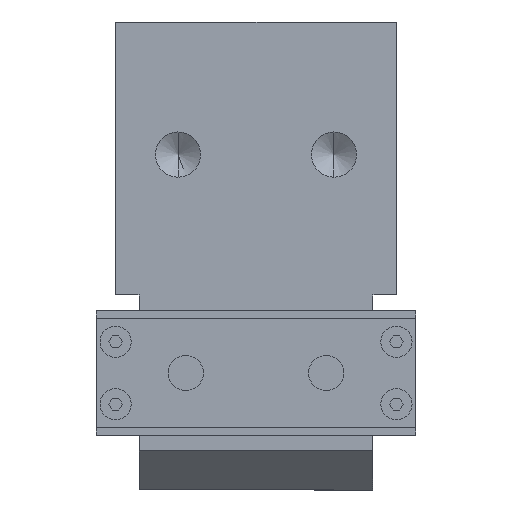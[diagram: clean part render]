
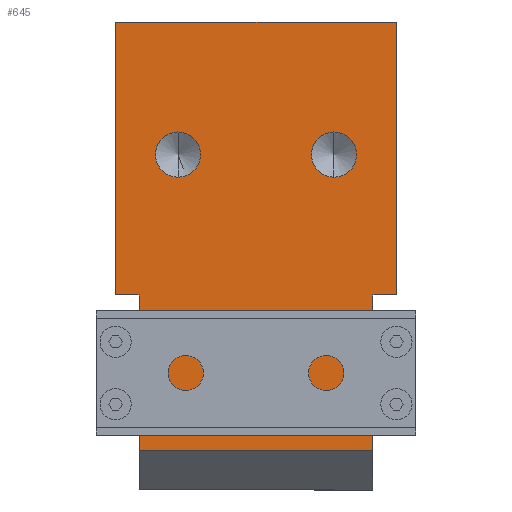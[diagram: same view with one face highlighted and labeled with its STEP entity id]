
A CAD part, left-side view. The second image highlights one B-rep face of the part: STEP entity #645.
In plain terms, the highlighted planar face has unit normal (-1, 0, 0).
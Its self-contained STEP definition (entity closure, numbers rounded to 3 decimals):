
#108 = VERTEX_POINT ( 'NONE', #2034 ) ;
#113 = VERTEX_POINT ( 'NONE', #2143 ) ;
#151 = EDGE_CURVE ( 'NONE', #108, #238, #2081, .T. ) ;
#234 = EDGE_CURVE ( 'NONE', #1943, #113, #2322, .T. ) ;
#238 = VERTEX_POINT ( 'NONE', #2313 ) ;
#280 = VERTEX_POINT ( 'NONE', #2564 ) ;
#390 = EDGE_CURVE ( 'NONE', #280, #770, #2604, .T. ) ;
#474 = VERTEX_POINT ( 'NONE', #2780 ) ;
#642 = ORIENTED_EDGE ( 'NONE', *, *, #668, .T. ) ;
#643 = EDGE_CURVE ( 'NONE', #113, #1943, #3180, .T. ) ;
#645 = ADVANCED_FACE ( 'NONE', ( #3173, #2973, #2968 ), #2972, .F. ) ;
#647 = ORIENTED_EDGE ( 'NONE', *, *, #773, .T. ) ;
#648 = ORIENTED_EDGE ( 'NONE', *, *, #390, .F. ) ;
#649 = EDGE_CURVE ( 'NONE', #683, #682, #2959, .T. ) ;
#652 = ORIENTED_EDGE ( 'NONE', *, *, #234, .F. ) ;
#653 = ORIENTED_EDGE ( 'NONE', *, *, #649, .F. ) ;
#655 = ORIENTED_EDGE ( 'NONE', *, *, #643, .F. ) ;
#659 = ORIENTED_EDGE ( 'NONE', *, *, #674, .F. ) ;
#661 = ORIENTED_EDGE ( 'NONE', *, *, #679, .T. ) ;
#662 = EDGE_CURVE ( 'NONE', #666, #474, #2963, .T. ) ;
#666 = VERTEX_POINT ( 'NONE', #3058 ) ;
#668 = EDGE_CURVE ( 'NONE', #238, #682, #3051, .T. ) ;
#671 = EDGE_LOOP ( 'NONE', ( #655, #652 ) ) ;
#674 = EDGE_CURVE ( 'NONE', #108, #280, #3129, .T. ) ;
#675 = ORIENTED_EDGE ( 'NONE', *, *, #677, .F. ) ;
#677 = EDGE_CURVE ( 'NONE', #2010, #1951, #3057, .T. ) ;
#678 = ORIENTED_EDGE ( 'NONE', *, *, #1950, .F. ) ;
#679 = EDGE_CURVE ( 'NONE', #683, #666, #3122, .T. ) ;
#682 = VERTEX_POINT ( 'NONE', #3142 ) ;
#683 = VERTEX_POINT ( 'NONE', #3123 ) ;
#697 = EDGE_LOOP ( 'NONE', ( #675, #678 ) ) ;
#700 = ORIENTED_EDGE ( 'NONE', *, *, #151, .T. ) ;
#703 = ORIENTED_EDGE ( 'NONE', *, *, #662, .T. ) ;
#704 = EDGE_LOOP ( 'NONE', ( #653, #661, #703, #647, #648, #659, #700, #642 ) ) ;
#770 = VERTEX_POINT ( 'NONE', #3288 ) ;
#773 = EDGE_CURVE ( 'NONE', #474, #770, #3309, .T. ) ;
#1943 = VERTEX_POINT ( 'NONE', #5842 ) ;
#1950 = EDGE_CURVE ( 'NONE', #1951, #2010, #5814, .T. ) ;
#1951 = VERTEX_POINT ( 'NONE', #5853 ) ;
#2010 = VERTEX_POINT ( 'NONE', #5768 ) ;
#2034 = CARTESIAN_POINT ( 'NONE',  ( 0., 36., 35. ) ) ;
#2052 = DIRECTION ( 'NONE',  ( 0., 0., -1. ) ) ;
#2053 = VECTOR ( 'NONE', #2052, 1000. ) ;
#2054 = CARTESIAN_POINT ( 'NONE',  ( 0., 36., 35. ) ) ;
#2081 = LINE ( 'NONE', #2054, #2053 ) ;
#2143 = CARTESIAN_POINT ( 'NONE',  ( 0., 28., 20.9 ) ) ;
#2308 = AXIS2_PLACEMENT_3D ( 'NONE', #2342, #2341, #2340 ) ;
#2313 = CARTESIAN_POINT ( 'NONE',  ( 0., 36., 0. ) ) ;
#2322 = CIRCLE ( 'NONE', #2308, 2.9 ) ;
#2340 = DIRECTION ( 'NONE',  ( 0., 0., 1. ) ) ;
#2341 = DIRECTION ( 'NONE',  ( -1., 0., 0. ) ) ;
#2342 = CARTESIAN_POINT ( 'NONE',  ( 0., 28., 18. ) ) ;
#2564 = CARTESIAN_POINT ( 'NONE',  ( 0., 0., 35. ) ) ;
#2604 = LINE ( 'NONE', #2652, #2640 ) ;
#2640 = VECTOR ( 'NONE', #2651, 1000. ) ;
#2651 = DIRECTION ( 'NONE',  ( 0., 0., -1. ) ) ;
#2652 = CARTESIAN_POINT ( 'NONE',  ( 0., 0., 35. ) ) ;
#2780 = CARTESIAN_POINT ( 'NONE',  ( 0., 3., 0. ) ) ;
#2959 = LINE ( 'NONE', #3172, #3071 ) ;
#2960 = DIRECTION ( 'NONE',  ( 0., 0., -1. ) ) ;
#2962 = CARTESIAN_POINT ( 'NONE',  ( 0., 3., -25. ) ) ;
#2963 = LINE ( 'NONE', #2962, #3060 ) ;
#2964 = CARTESIAN_POINT ( 'NONE',  ( 0., 0., 35. ) ) ;
#2968 = FACE_OUTER_BOUND ( 'NONE', #704, .T. ) ;
#2970 = DIRECTION ( 'NONE',  ( 0., 0., 1. ) ) ;
#2971 = DIRECTION ( 'NONE',  ( -1., 0., 0. ) ) ;
#2972 = PLANE ( 'NONE',  #3184 ) ;
#2973 = FACE_BOUND ( 'NONE', #671, .T. ) ;
#3047 = CARTESIAN_POINT ( 'NONE',  ( 0., 3., -20. ) ) ;
#3048 = DIRECTION ( 'NONE',  ( 0., -1., 0. ) ) ;
#3049 = VECTOR ( 'NONE', #3048, 1000. ) ;
#3050 = CARTESIAN_POINT ( 'NONE',  ( 0., 0., 0. ) ) ;
#3051 = LINE ( 'NONE', #3050, #3049 ) ;
#3057 = CIRCLE ( 'NONE', #3124, 2.9 ) ;
#3058 = CARTESIAN_POINT ( 'NONE',  ( 0., 3., -20. ) ) ;
#3059 = DIRECTION ( 'NONE',  ( 0., 0., 1. ) ) ;
#3060 = VECTOR ( 'NONE', #3059, 1000. ) ;
#3071 = VECTOR ( 'NONE', #3171, 1000. ) ;
#3117 = DIRECTION ( 'NONE',  ( 0., -1., 0. ) ) ;
#3118 = VECTOR ( 'NONE', #3117, 1000. ) ;
#3120 = DIRECTION ( 'NONE',  ( 0., 0., 1. ) ) ;
#3121 = DIRECTION ( 'NONE',  ( -1., 0., 0. ) ) ;
#3122 = LINE ( 'NONE', #3047, #3118 ) ;
#3123 = CARTESIAN_POINT ( 'NONE',  ( 0., 33., -20. ) ) ;
#3124 = AXIS2_PLACEMENT_3D ( 'NONE', #3139, #3121, #3120 ) ;
#3125 = DIRECTION ( 'NONE',  ( 0., -1., 0. ) ) ;
#3126 = VECTOR ( 'NONE', #3125, 1000. ) ;
#3127 = CARTESIAN_POINT ( 'NONE',  ( 0., 0., 35. ) ) ;
#3129 = LINE ( 'NONE', #3127, #3126 ) ;
#3139 = CARTESIAN_POINT ( 'NONE',  ( 0., 8., 18. ) ) ;
#3142 = CARTESIAN_POINT ( 'NONE',  ( 0., 33., 0. ) ) ;
#3171 = DIRECTION ( 'NONE',  ( 0., 0., 1. ) ) ;
#3172 = CARTESIAN_POINT ( 'NONE',  ( 0., 33., -25. ) ) ;
#3173 = FACE_BOUND ( 'NONE', #697, .T. ) ;
#3177 = AXIS2_PLACEMENT_3D ( 'NONE', #3200, #2971, #2970 ) ;
#3178 = DIRECTION ( 'NONE',  ( 1., 0., 0. ) ) ;
#3180 = CIRCLE ( 'NONE', #3177, 2.9 ) ;
#3184 = AXIS2_PLACEMENT_3D ( 'NONE', #2964, #3178, #2960 ) ;
#3200 = CARTESIAN_POINT ( 'NONE',  ( 0., 28., 18. ) ) ;
#3288 = CARTESIAN_POINT ( 'NONE',  ( 0., 0., 0. ) ) ;
#3306 = DIRECTION ( 'NONE',  ( 0., -1., 0. ) ) ;
#3307 = VECTOR ( 'NONE', #3306, 1000. ) ;
#3308 = CARTESIAN_POINT ( 'NONE',  ( 0., 0., 0. ) ) ;
#3309 = LINE ( 'NONE', #3308, #3307 ) ;
#5768 = CARTESIAN_POINT ( 'NONE',  ( 0., 8., 20.9 ) ) ;
#5770 = DIRECTION ( 'NONE',  ( 0., 0., 1. ) ) ;
#5771 = DIRECTION ( 'NONE',  ( -1., 0., 0. ) ) ;
#5772 = CARTESIAN_POINT ( 'NONE',  ( 0., 8., 18. ) ) ;
#5773 = AXIS2_PLACEMENT_3D ( 'NONE', #5772, #5771, #5770 ) ;
#5814 = CIRCLE ( 'NONE', #5773, 2.9 ) ;
#5842 = CARTESIAN_POINT ( 'NONE',  ( 0., 28., 15.1 ) ) ;
#5853 = CARTESIAN_POINT ( 'NONE',  ( 0., 8., 15.1 ) ) ;
